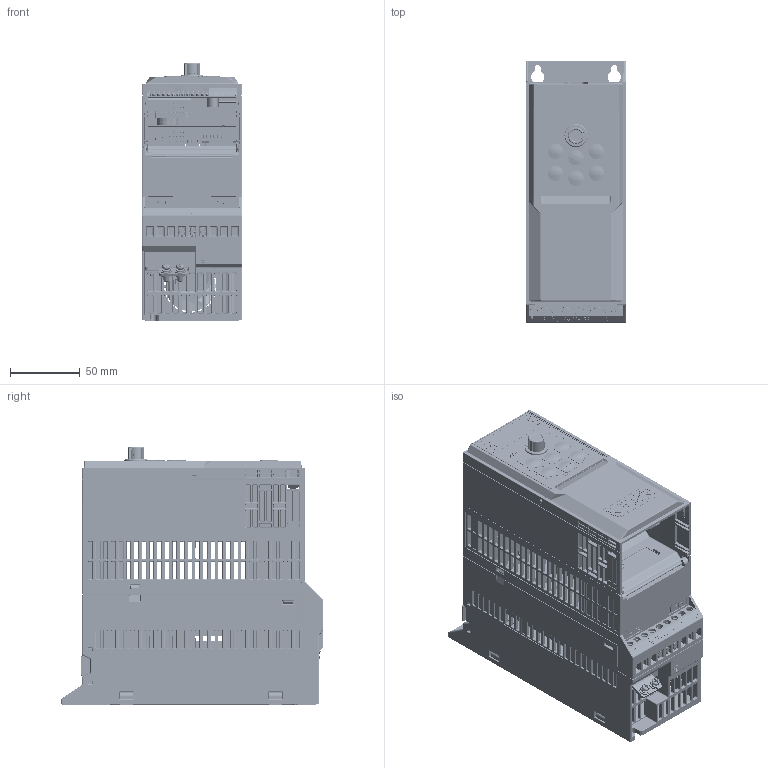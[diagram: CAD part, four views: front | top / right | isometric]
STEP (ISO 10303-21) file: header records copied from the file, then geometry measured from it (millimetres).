
FILE_DESCRIPTION((''),'2;1');
FILE_NAME('AD800P-D1-DRIVE_ASM','2025-06-24T14:53:04',('wendong.luo'),(''),'CREO PARAMETRIC BY PTC INC, 2024374','CREO PARAMETRIC BY PTC INC, 2024374','');
FILE_SCHEMA(('CONFIG_CONTROL_DESIGN','GEOMETRIC_VALIDATION_PROPERTIES_MIM'));
Products named in the file (35): D1_MECHANICAL_PART; E0400127; E0400012; LED-90_HMD0; M0202003; D1-PU_ASM; M0104151; E0100736; E0400142; E0400150; E0400073; E0400023; E0100738_ASM; E0200416; M0104143; E0100735; E0400035; E0400118; E0400011; E0100737_ASM; M0104016; M0104018; E0100102; E0200191; E0200192; E0100102_ASM; M0104017; M0203163; EXTERNAL_KEYPAD_ASM; M0203158; M0203159; M0104150; M0203053; CU0P-ASSY_ASM; AD800P-D1-DRIVE_ASM
Assembly tree (40 placements, depth 5):
  AD800P-D1-DRIVE_ASM
    D1-PU_ASM
      D1_MECHANICAL_PART
      E0400127
      E0400012
      LED-90_HMD0  x2
      M0202003  x2
    CU0P-ASSY_ASM
      M0104151
      E0100738_ASM
        E0100736
        E0400142
        E0400150
        E0400073  x2
        E0400023
      E0200416
      M0104143
      E0100737_ASM
        E0100735
        E0400035
        E0400118
        E0400023
        E0400011
      EXTERNAL_KEYPAD_ASM
        M0104016
        M0104018
        E0100102_ASM
          E0100102
          E0200191
          E0200192
          E0400035
          E0400011
        M0104017
        M0203163
      M0203158
      M0203159
      M0104150
      M0203053
Bounding box: 72 x 188 x 184.8 mm (x, y, z)
Volume: 439701.9 mm3; surface area: 508461.4 mm2
Topology: 60 solids, 119 shells, 21264 faces, 55823 edges, 35574 vertices
Faces by surface type: plane 10583, cylinder 5029, bspline 2398, extrusion 1638, cone 956, torus 519, sphere 141
Entity records: 898157 total; most frequent: CARTESIAN_POINT 257264, ORIENTED_EDGE 101718, DIRECTION 81262, EDGE_CURVE 51003, PRESENTATION_STYLE_ASSIGNMENT 50609, STYLED_ITEM 48737, CURVE_STYLE 44359, VERTEX_POINT 32506
